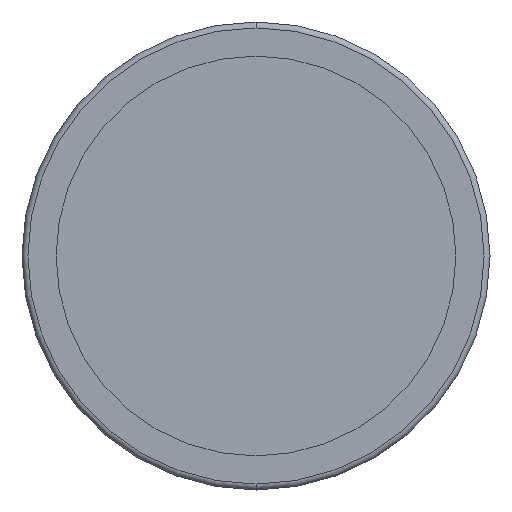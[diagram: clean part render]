
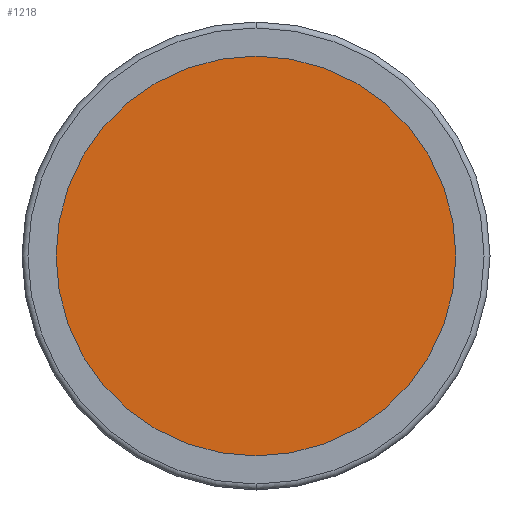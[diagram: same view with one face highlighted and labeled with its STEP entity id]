
A CAD part, front view. The second image highlights one B-rep face of the part: STEP entity #1218.
In plain terms, the highlighted planar face has unit normal (0, -1, 0).
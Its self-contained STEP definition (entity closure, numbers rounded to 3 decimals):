
#142 = EDGE_LOOP ( 'NONE', ( #719, #698 ) ) ;
#349 = CARTESIAN_POINT ( 'NONE',  ( 0., -2., 0. ) ) ;
#574 = PLANE ( 'NONE',  #881 ) ;
#672 = AXIS2_PLACEMENT_3D ( 'NONE', #808, #1557, #1368 ) ;
#698 = ORIENTED_EDGE ( 'NONE', *, *, #1938, .F. ) ;
#719 = ORIENTED_EDGE ( 'NONE', *, *, #1644, .F. ) ;
#808 = CARTESIAN_POINT ( 'NONE',  ( 0., -2., 0. ) ) ;
#881 = AXIS2_PLACEMENT_3D ( 'NONE', #1352, #1167, #1740 ) ;
#950 = AXIS2_PLACEMENT_3D ( 'NONE', #349, #1880, #2074 ) ;
#1167 = DIRECTION ( 'NONE',  ( 0., -1., 0. ) ) ;
#1218 = ADVANCED_FACE ( 'NONE', ( #1901 ), #574, .T. ) ;
#1227 = CIRCLE ( 'NONE', #950, 33.75 ) ;
#1299 = VERTEX_POINT ( 'NONE', #2348 ) ;
#1352 = CARTESIAN_POINT ( 'NONE',  ( -33.75, -2., 0. ) ) ;
#1368 = DIRECTION ( 'NONE',  ( 0., 0., 1. ) ) ;
#1557 = DIRECTION ( 'NONE',  ( 0., 1., 0. ) ) ;
#1644 = EDGE_CURVE ( 'NONE', #1299, #1720, #1227, .T. ) ;
#1720 = VERTEX_POINT ( 'NONE', #2206 ) ;
#1740 = DIRECTION ( 'NONE',  ( 0., 0., -1. ) ) ;
#1880 = DIRECTION ( 'NONE',  ( 0., 1., 0. ) ) ;
#1901 = FACE_OUTER_BOUND ( 'NONE', #142, .T. ) ;
#1938 = EDGE_CURVE ( 'NONE', #1720, #1299, #2196, .T. ) ;
#2074 = DIRECTION ( 'NONE',  ( 0., 0., 1. ) ) ;
#2196 = CIRCLE ( 'NONE', #672, 33.75 ) ;
#2206 = CARTESIAN_POINT ( 'NONE',  ( 0., -2., -33.75 ) ) ;
#2348 = CARTESIAN_POINT ( 'NONE',  ( 0., -2., 33.75 ) ) ;
